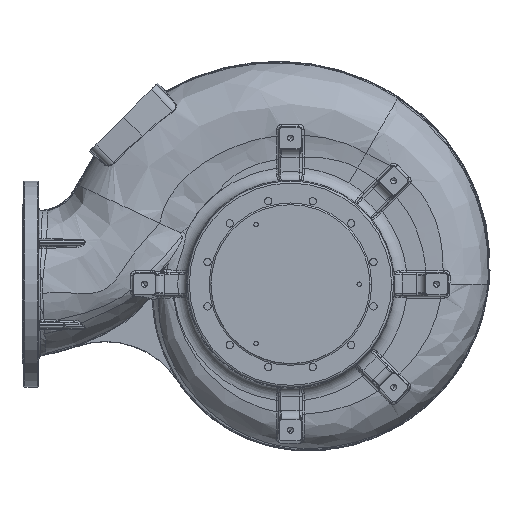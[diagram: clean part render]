
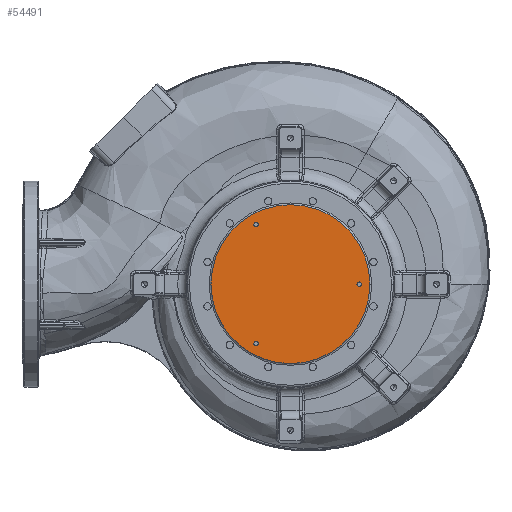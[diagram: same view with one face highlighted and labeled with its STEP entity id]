
A CAD part, front view. The second image highlights one B-rep face of the part: STEP entity #54491.
In plain terms, the highlighted planar face has unit normal (0, -1, 0).
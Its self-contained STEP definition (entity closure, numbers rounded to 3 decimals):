
#1154 = AXIS2_PLACEMENT_3D ( 'NONE', #96459, #34163, #106929 ) ;
#1250 = CIRCLE ( 'NONE', #26359, 5.1 ) ;
#1912 = CARTESIAN_POINT ( 'NONE',  ( 550.1, 0., 138.564 ) ) ;
#3681 = DIRECTION ( 'NONE',  ( 1., 0., 0. ) ) ;
#3741 = CARTESIAN_POINT ( 'NONE',  ( 545., 0., -138.564 ) ) ;
#4883 = CIRCLE ( 'NONE', #1154, 5.1 ) ;
#9037 = DIRECTION ( 'NONE',  ( -1., 0., 0. ) ) ;
#9280 = CARTESIAN_POINT ( 'NONE',  ( 539.9, 0., 138.564 ) ) ;
#10286 = CARTESIAN_POINT ( 'NONE',  ( 440., 0., 0. ) ) ;
#10373 = CARTESIAN_POINT ( 'NONE',  ( 625., 0., 0. ) ) ;
#10529 = EDGE_CURVE ( 'NONE', #105618, #16710, #41557, .T. ) ;
#11606 = VERTEX_POINT ( 'NONE', #10286 ) ;
#13974 = AXIS2_PLACEMENT_3D ( 'NONE', #133750, #71470, #9037 ) ;
#14235 = DIRECTION ( 'NONE',  ( -1., 0., 0. ) ) ;
#16289 = VERTEX_POINT ( 'NONE', #9280 ) ;
#16710 = VERTEX_POINT ( 'NONE', #51093 ) ;
#17191 = CIRCLE ( 'NONE', #124148, 185. ) ;
#18620 = DIRECTION ( 'NONE',  ( 0., 1., 0. ) ) ;
#18718 = ORIENTED_EDGE ( 'NONE', *, *, #73391, .F. ) ;
#20870 = DIRECTION ( 'NONE',  ( 1., 0., 0. ) ) ;
#26359 = AXIS2_PLACEMENT_3D ( 'NONE', #3741, #76616, #14235 ) ;
#28252 = FACE_BOUND ( 'NONE', #64050, .T. ) ;
#30606 = VERTEX_POINT ( 'NONE', #58618 ) ;
#34163 = DIRECTION ( 'NONE',  ( 0., -1., 0. ) ) ;
#34509 = CIRCLE ( 'NONE', #130012, 5.1 ) ;
#34983 = AXIS2_PLACEMENT_3D ( 'NONE', #128446, #66110, #3681 ) ;
#35083 = ORIENTED_EDGE ( 'NONE', *, *, #39311, .F. ) ;
#37547 = DIRECTION ( 'NONE',  ( 0., -1., 0. ) ) ;
#39311 = EDGE_CURVE ( 'NONE', #61211, #16289, #69741, .T. ) ;
#39669 = ORIENTED_EDGE ( 'NONE', *, *, #10529, .F. ) ;
#41557 = CIRCLE ( 'NONE', #104260, 5.1 ) ;
#44979 = CARTESIAN_POINT ( 'NONE',  ( 785., 0., 0. ) ) ;
#51093 = CARTESIAN_POINT ( 'NONE',  ( 790.1, 0., 0. ) ) ;
#52732 = CARTESIAN_POINT ( 'NONE',  ( 785., 0., 0. ) ) ;
#53092 = ORIENTED_EDGE ( 'NONE', *, *, #114426, .F. ) ;
#54491 = ADVANCED_FACE ( 'NONE', ( #83597, #114559, #55940, #28252 ), #82811, .F. ) ;
#55426 = DIRECTION ( 'NONE',  ( -1., 0., 0. ) ) ;
#55940 = FACE_OUTER_BOUND ( 'NONE', #132592, .T. ) ;
#58205 = ORIENTED_EDGE ( 'NONE', *, *, #79832, .F. ) ;
#58618 = CARTESIAN_POINT ( 'NONE',  ( 810., 0., 0. ) ) ;
#59401 = CIRCLE ( 'NONE', #34983, 185. ) ;
#61211 = VERTEX_POINT ( 'NONE', #1912 ) ;
#63163 = EDGE_CURVE ( 'NONE', #11606, #30606, #59401, .T. ) ;
#63214 = DIRECTION ( 'NONE',  ( -1., 0., 0. ) ) ;
#64050 = EDGE_LOOP ( 'NONE', ( #77645, #93540 ) ) ;
#66110 = DIRECTION ( 'NONE',  ( 0., 1., 0. ) ) ;
#69741 = CIRCLE ( 'NONE', #13974, 5.1 ) ;
#71470 = DIRECTION ( 'NONE',  ( 0., -1., 0. ) ) ;
#73391 = EDGE_CURVE ( 'NONE', #16289, #61211, #4883, .T. ) ;
#73693 = ORIENTED_EDGE ( 'NONE', *, *, #63163, .F. ) ;
#73913 = VERTEX_POINT ( 'NONE', #110671 ) ;
#76616 = DIRECTION ( 'NONE',  ( 0., -1., 0. ) ) ;
#77645 = ORIENTED_EDGE ( 'NONE', *, *, #129241, .F. ) ;
#79692 = AXIS2_PLACEMENT_3D ( 'NONE', #10373, #83259, #20870 ) ;
#79832 = EDGE_CURVE ( 'NONE', #30606, #11606, #17191, .T. ) ;
#80981 = CARTESIAN_POINT ( 'NONE',  ( 625., 0., 0. ) ) ;
#82811 = PLANE ( 'NONE',  #79692 ) ;
#83259 = DIRECTION ( 'NONE',  ( 0., 1., 0. ) ) ;
#83597 = FACE_BOUND ( 'NONE', #112709, .T. ) ;
#85083 = CARTESIAN_POINT ( 'NONE',  ( 539.9, 0., -138.564 ) ) ;
#89694 = EDGE_CURVE ( 'NONE', #73913, #91878, #1250, .T. ) ;
#91445 = DIRECTION ( 'NONE',  ( 1., 0., 0. ) ) ;
#91878 = VERTEX_POINT ( 'NONE', #85083 ) ;
#93540 = ORIENTED_EDGE ( 'NONE', *, *, #89694, .F. ) ;
#96459 = CARTESIAN_POINT ( 'NONE',  ( 545., 0., 138.564 ) ) ;
#98853 = CIRCLE ( 'NONE', #108051, 5.1 ) ;
#99858 = CARTESIAN_POINT ( 'NONE',  ( 545., 0., -138.564 ) ) ;
#104260 = AXIS2_PLACEMENT_3D ( 'NONE', #52732, #125535, #63214 ) ;
#105448 = CARTESIAN_POINT ( 'NONE',  ( 779.9, 0., 0. ) ) ;
#105618 = VERTEX_POINT ( 'NONE', #105448 ) ;
#106929 = DIRECTION ( 'NONE',  ( -1., 0., 0. ) ) ;
#108051 = AXIS2_PLACEMENT_3D ( 'NONE', #99858, #37547, #110355 ) ;
#110355 = DIRECTION ( 'NONE',  ( -1., 0., 0. ) ) ;
#110671 = CARTESIAN_POINT ( 'NONE',  ( 550.1, 0., -138.564 ) ) ;
#112709 = EDGE_LOOP ( 'NONE', ( #18718, #35083 ) ) ;
#114426 = EDGE_CURVE ( 'NONE', #16710, #105618, #34509, .T. ) ;
#114559 = FACE_BOUND ( 'NONE', #117507, .T. ) ;
#117507 = EDGE_LOOP ( 'NONE', ( #39669, #53092 ) ) ;
#117751 = DIRECTION ( 'NONE',  ( 0., -1., 0. ) ) ;
#124148 = AXIS2_PLACEMENT_3D ( 'NONE', #80981, #18620, #91445 ) ;
#125535 = DIRECTION ( 'NONE',  ( 0., -1., 0. ) ) ;
#128446 = CARTESIAN_POINT ( 'NONE',  ( 625., 0., 0. ) ) ;
#129241 = EDGE_CURVE ( 'NONE', #91878, #73913, #98853, .T. ) ;
#130012 = AXIS2_PLACEMENT_3D ( 'NONE', #44979, #117751, #55426 ) ;
#132592 = EDGE_LOOP ( 'NONE', ( #58205, #73693 ) ) ;
#133750 = CARTESIAN_POINT ( 'NONE',  ( 545., 0., 138.564 ) ) ;
